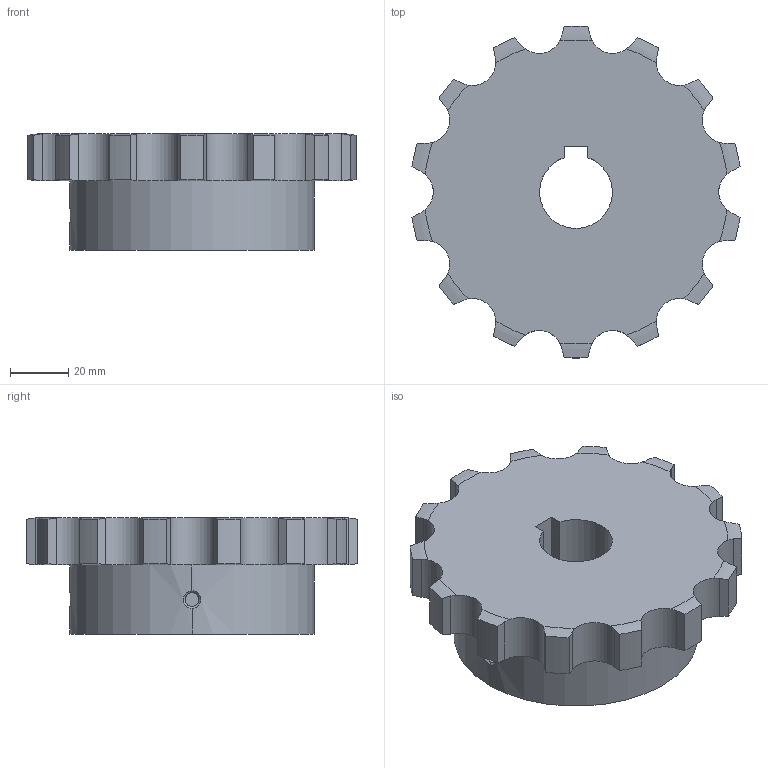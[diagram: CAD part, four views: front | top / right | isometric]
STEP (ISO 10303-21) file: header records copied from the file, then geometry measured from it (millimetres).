
FILE_DESCRIPTION((''),'2;1');
FILE_NAME('510-501-2514_PRT','2021-02-13T',('Brieden'),('Brieden'),'PRO/ENGINEER BY PARAMETRIC TECHNOLOGY CORPORATION, 2010160','PRO/ENGINEER BY PARAMETRIC TECHNOLOGY CORPORATION, 2010160','');
FILE_SCHEMA(('AUTOMOTIVE_DESIGN { 1 0 10303 214 1 1 1 1 }'));
Length unit declared in the file: millimetre
Products named in the file (1): 510-501-2514_PRT
Bounding box: 112.81 x 114.12 x 40 mm (x, y, z)
Volume: 253691.8 mm3; surface area: 33999.3 mm2
Topology: 1 solids, 1 shells, 105 faces, 297 edges, 196 vertices
Faces by surface type: cylinder 63, torus 28, plane 8, bspline 6
Entity records: 5168 total; most frequent: CARTESIAN_POINT 1653, ORIENTED_EDGE 594, DIRECTION 465, PRESENTATION_STYLE_ASSIGNMENT 298, STYLED_ITEM 298, CURVE_STYLE 297, EDGE_CURVE 297, VERTEX_POINT 196
